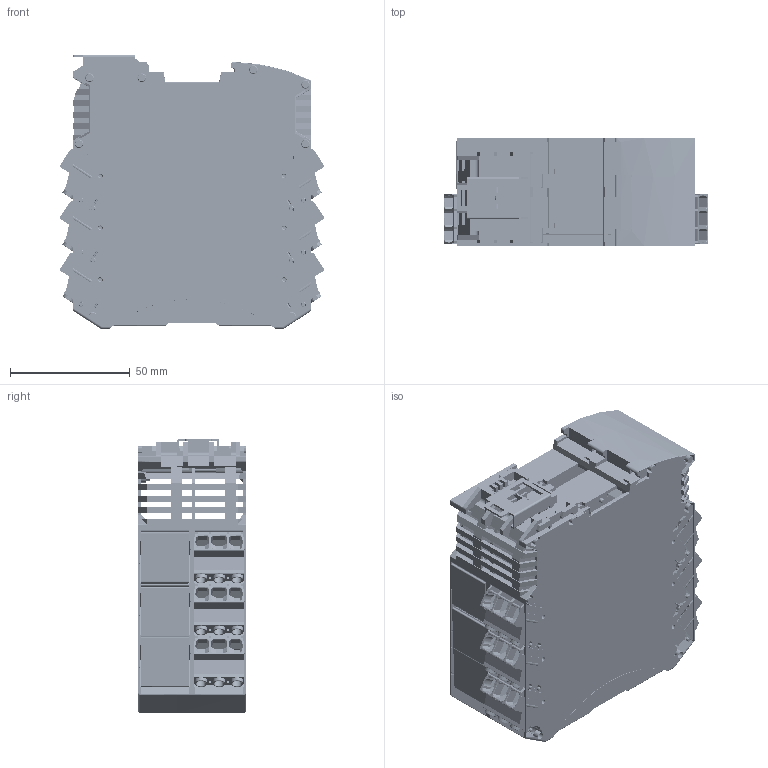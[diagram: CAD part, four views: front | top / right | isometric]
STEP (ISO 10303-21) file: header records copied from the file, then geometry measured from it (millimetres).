
FILE_DESCRIPTION(('STEP AP214'), '1');
FILE_NAME('PF-1F-1C-10, PF-1F-1C-15, PF-1F-1C-20, PF-1F-1C-30', '2026-09-04T10:37:38', (''), (''), 'C3D Converter', 'C3D Toolkit', '');
FILE_SCHEMA(('AUTOMOTIVE_DESIGN { 1 0 10303 214 3 1 1}'));
Length unit declared in the file: millimetre
Bounding box: 110.36 x 45.2 x 114.2 mm (x, y, z)
Volume: 91571.9 mm3; surface area: 131401.2 mm2
Topology: 2 solids, 2 shells, 8552 faces, 24269 edges, 15844 vertices
Faces by surface type: plane 6219, cylinder 1041, extrusion 881, torus 192, bspline 116, cone 90, sphere 13
Full cylindrical faces by diameter (mm): 0.4 x1, 0.8 x5, 1 x12, 1.2 x2, 1.5 x23, 1.6 x19, 1.8 x8, 2 x40, 2.8 x1, 3 x16, 4 x36, 4.5 x1, 5.3 x6
Entity records: 368525 total; most frequent: CARTESIAN_POINT 83751, ORIENTED_EDGE 47590, DIRECTION 39258, EDGE_CURVE 23795, VECTOR 19726, LINE 18845, VERTEX_POINT 15835, AXIS2_PLACEMENT_3D 9766
